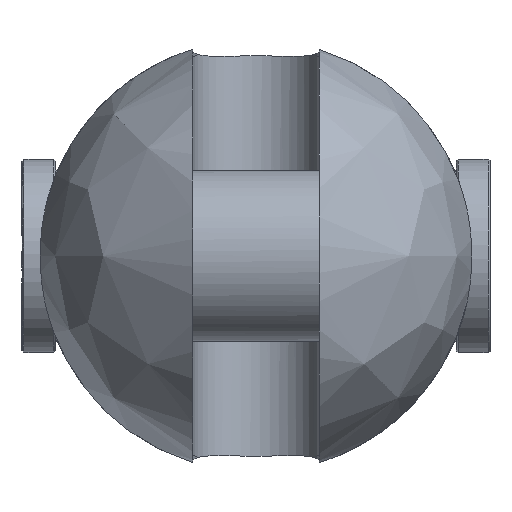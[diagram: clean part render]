
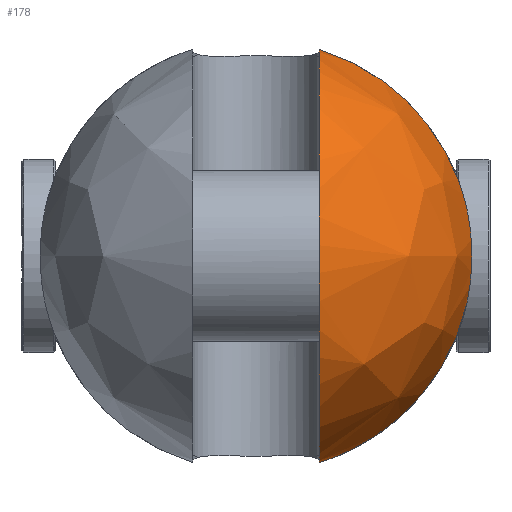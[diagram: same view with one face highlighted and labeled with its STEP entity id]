
A CAD part, left-side view. The second image highlights one B-rep face of the part: STEP entity #178.
In plain terms, the highlighted free-form (B-spline) face has degree [2, 2] with [9, 5] control points.
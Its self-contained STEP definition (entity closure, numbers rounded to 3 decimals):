
#178=ADVANCED_FACE('',(#318),#2409,.T.);
#318=FACE_OUTER_BOUND('',#478,.T.);
#478=EDGE_LOOP('',(#1189,#1190,#1191,#1192));
#1189=ORIENTED_EDGE('',*,*,#1573,.T.);
#1190=ORIENTED_EDGE('',*,*,#1597,.F.);
#1191=ORIENTED_EDGE('',*,*,#1609,.T.);
#1192=ORIENTED_EDGE('',*,*,#1589,.F.);
#1573=EDGE_CURVE('',#2242,#2241,#1976,.T.);
#1589=EDGE_CURVE('',#2242,#2254,#1986,.T.);
#1597=EDGE_CURVE('',#2261,#2241,#1987,.T.);
#1609=EDGE_CURVE('',#2261,#2254,#1782,.T.);
#1782=B_SPLINE_CURVE_WITH_KNOTS('',3,(#6119,#6120,#6121,#6122,#6123,#6124,
#6125,#6126,#6127,#6128,#6129,#6130,#6131,#6132),.UNSPECIFIED.,.F.,.F.,
(4,2,2,2,2,2,4),(0.,0.91,6.934,12.958,
18.982,25.007,25.916),.UNSPECIFIED.);
#1976=(
BOUNDED_CURVE()
B_SPLINE_CURVE(2,(#5887,#5888,#5889,#5890,#5891),.UNSPECIFIED.,.F.,.F.)
B_SPLINE_CURVE_WITH_KNOTS((3,2,3),(-174.21,-87.105,
0.),.UNSPECIFIED.)
CURVE()
GEOMETRIC_REPRESENTATION_ITEM()
RATIONAL_B_SPLINE_CURVE((1.,0.707,1.,0.707,1.))
REPRESENTATION_ITEM('')
);
#1986=(
BOUNDED_CURVE()
B_SPLINE_CURVE(2,(#5989,#5990,#5991),.UNSPECIFIED.,.F.,.F.)
B_SPLINE_CURVE_WITH_KNOTS((3,3),(0.,61.388),.UNSPECIFIED.)
CURVE()
GEOMETRIC_REPRESENTATION_ITEM()
RATIONAL_B_SPLINE_CURVE((1.,0.863,1.))
REPRESENTATION_ITEM('')
);
#1987=(
BOUNDED_CURVE()
B_SPLINE_CURVE(2,(#6046,#6047,#6048),.UNSPECIFIED.,.F.,.F.)
B_SPLINE_CURVE_WITH_KNOTS((3,3),(0.,61.388),.UNSPECIFIED.)
CURVE()
GEOMETRIC_REPRESENTATION_ITEM()
RATIONAL_B_SPLINE_CURVE((1.,0.863,1.))
REPRESENTATION_ITEM('')
);
#2241=VERTEX_POINT('',#5739);
#2242=VERTEX_POINT('',#5740);
#2254=VERTEX_POINT('',#5752);
#2261=VERTEX_POINT('',#5759);
#2409=(
BOUNDED_SURFACE()
B_SPLINE_SURFACE(2,2,((#5453,#5454,#5455,#5456,#5457),(#5458,#5459,#5460,
#5461,#5462),(#5463,#5464,#5465,#5466,#5467),(#5468,#5469,#5470,#5471,#5472),
(#5473,#5474,#5475,#5476,#5477),(#5478,#5479,#5480,#5481,#5482),(#5483,
#5484,#5485,#5486,#5487),(#5488,#5489,#5490,#5491,#5492),(#5493,#5494,#5495,
#5496,#5497)),.UNSPECIFIED.,.T.,.F.,.F.)
B_SPLINE_SURFACE_WITH_KNOTS((3,2,2,2,3),(3,2,3),(0.,91.106,182.212,
273.319,364.425),(0.,91.106,182.212),
 .UNSPECIFIED.)
GEOMETRIC_REPRESENTATION_ITEM()
RATIONAL_B_SPLINE_SURFACE(((1.,0.707,1.,0.707,1.),
(0.707,0.5,0.707,0.5,0.707),(1.,0.707,
1.,0.707,1.),(0.707,0.5,0.707,0.5,0.707),
(1.,0.707,1.,0.707,1.),(0.707,0.5,0.707,
0.5,0.707),(1.,0.707,1.,0.707,1.),(0.707,
0.5,0.707,0.5,0.707),(1.,0.707,1.,0.707,
1.)))
REPRESENTATION_ITEM('')
SURFACE()
);
#5453=CARTESIAN_POINT('',(-82.,0.,0.));
#5454=CARTESIAN_POINT('',(-82.,58.,0.));
#5455=CARTESIAN_POINT('',(-24.,58.,0.));
#5456=CARTESIAN_POINT('',(34.,58.,0.));
#5457=CARTESIAN_POINT('',(34.,0.,0.));
#5458=CARTESIAN_POINT('',(-82.,0.,0.));
#5459=CARTESIAN_POINT('',(-82.,58.,58.));
#5460=CARTESIAN_POINT('',(-24.,58.,58.));
#5461=CARTESIAN_POINT('',(34.,58.,58.));
#5462=CARTESIAN_POINT('',(34.,0.,0.));
#5463=CARTESIAN_POINT('',(-82.,0.,0.));
#5464=CARTESIAN_POINT('',(-82.,0.,58.));
#5465=CARTESIAN_POINT('',(-24.,0.,58.));
#5466=CARTESIAN_POINT('',(34.,0.,58.));
#5467=CARTESIAN_POINT('',(34.,0.,0.));
#5468=CARTESIAN_POINT('',(-82.,0.,0.));
#5469=CARTESIAN_POINT('',(-82.,-58.,58.));
#5470=CARTESIAN_POINT('',(-24.,-58.,58.));
#5471=CARTESIAN_POINT('',(34.,-58.,58.));
#5472=CARTESIAN_POINT('',(34.,0.,0.));
#5473=CARTESIAN_POINT('',(-82.,0.,0.));
#5474=CARTESIAN_POINT('',(-82.,-58.,0.));
#5475=CARTESIAN_POINT('',(-24.,-58.,0.));
#5476=CARTESIAN_POINT('',(34.,-58.,0.));
#5477=CARTESIAN_POINT('',(34.,0.,0.));
#5478=CARTESIAN_POINT('',(-82.,0.,0.));
#5479=CARTESIAN_POINT('',(-82.,-58.,-58.));
#5480=CARTESIAN_POINT('',(-24.,-58.,-58.));
#5481=CARTESIAN_POINT('',(34.,-58.,-58.));
#5482=CARTESIAN_POINT('',(34.,0.,0.));
#5483=CARTESIAN_POINT('',(-82.,0.,0.));
#5484=CARTESIAN_POINT('',(-82.,0.,-58.));
#5485=CARTESIAN_POINT('',(-24.,0.,-58.));
#5486=CARTESIAN_POINT('',(34.,0.,-58.));
#5487=CARTESIAN_POINT('',(34.,0.,0.));
#5488=CARTESIAN_POINT('',(-82.,0.,0.));
#5489=CARTESIAN_POINT('',(-82.,58.,-58.));
#5490=CARTESIAN_POINT('',(-24.,58.,-58.));
#5491=CARTESIAN_POINT('',(34.,58.,-58.));
#5492=CARTESIAN_POINT('',(34.,0.,0.));
#5493=CARTESIAN_POINT('',(-82.,0.,0.));
#5494=CARTESIAN_POINT('',(-82.,58.,0.));
#5495=CARTESIAN_POINT('',(-24.,58.,0.));
#5496=CARTESIAN_POINT('',(34.,58.,0.));
#5497=CARTESIAN_POINT('',(34.,0.,0.));
#5739=CARTESIAN_POINT('',(-24.,-17.,-55.453));
#5740=CARTESIAN_POINT('',(-24.,-17.,55.453));
#5752=CARTESIAN_POINT('',(-24.,-56.666,12.369));
#5759=CARTESIAN_POINT('',(-24.,-56.666,-12.369));
#5887=CARTESIAN_POINT('',(-24.,-17.,55.453));
#5888=CARTESIAN_POINT('',(-79.453,-17.,55.453));
#5889=CARTESIAN_POINT('',(-79.453,-17.,0.));
#5890=CARTESIAN_POINT('',(-79.453,-17.,-55.453));
#5891=CARTESIAN_POINT('',(-24.,-17.,-55.453));
#5989=CARTESIAN_POINT('',(-24.,-17.,55.453));
#5990=CARTESIAN_POINT('',(-24.,-49.431,45.51));
#5991=CARTESIAN_POINT('',(-24.,-56.666,12.369));
#6046=CARTESIAN_POINT('',(-24.,-56.666,-12.369));
#6047=CARTESIAN_POINT('',(-24.,-49.431,-45.51));
#6048=CARTESIAN_POINT('',(-24.,-17.,-55.453));
#6119=CARTESIAN_POINT('',(-24.,-56.666,-12.369));
#6120=CARTESIAN_POINT('',(-24.138,-56.724,-12.101));
#6121=CARTESIAN_POINT('',(-24.272,-56.781,-11.831));
#6122=CARTESIAN_POINT('',(-25.257,-57.197,-9.75));
#6123=CARTESIAN_POINT('',(-25.916,-57.472,-7.833));
#6124=CARTESIAN_POINT('',(-26.788,-57.835,-3.927));
#6125=CARTESIAN_POINT('',(-27.,-57.922,-1.939));
#6126=CARTESIAN_POINT('',(-27.,-57.922,1.939));
#6127=CARTESIAN_POINT('',(-26.788,-57.835,3.927));
#6128=CARTESIAN_POINT('',(-25.916,-57.472,7.833));
#6129=CARTESIAN_POINT('',(-25.257,-57.197,9.75));
#6130=CARTESIAN_POINT('',(-24.272,-56.781,11.831));
#6131=CARTESIAN_POINT('',(-24.138,-56.724,12.101));
#6132=CARTESIAN_POINT('',(-24.,-56.666,12.369));
